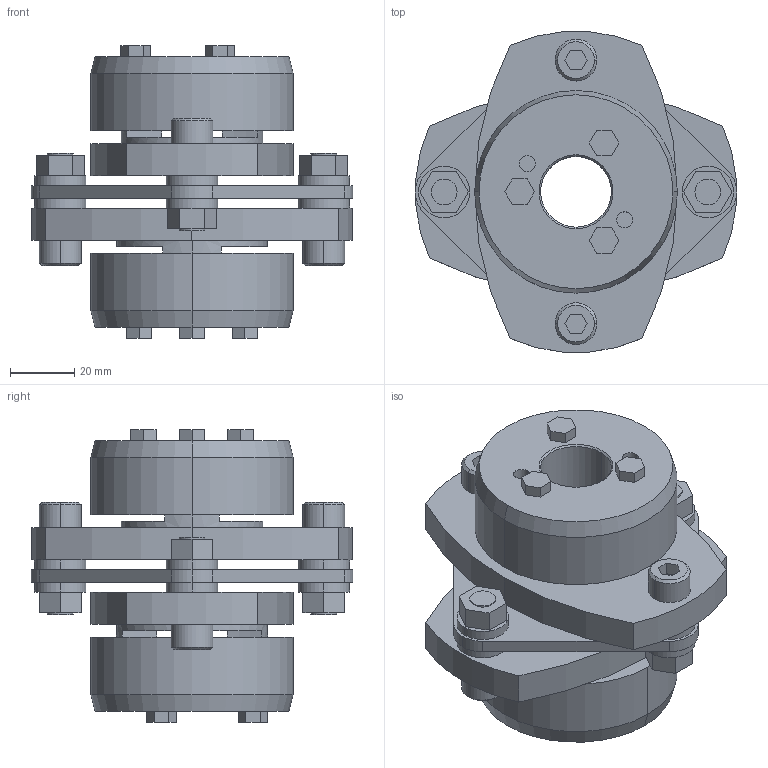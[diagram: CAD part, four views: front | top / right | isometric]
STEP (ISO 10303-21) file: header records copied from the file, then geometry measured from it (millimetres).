
FILE_DESCRIPTION((''),'2;1');
FILE_NAME('LCS-100T7-22×25.stp','2011-09-08T16:56:31',(''),(''),'AutoCAD STEP 2000i','AutoCAD 2000i',', , ');
FILE_SCHEMA(('CONFIG_CONTROL_DESIGN'));
Length unit declared in the file: millimetre
Products named in the file (6): LCS-100T7-22×25; 忣兜1; LC100T7-T025; LC100T7-T022-1; LC100T7-T022; LCS100-ITA
Assembly tree (5 placements, depth 2):
  LCS-100T7-22×25
    忣兜1
    LC100T7-T025
    LC100T7-T022-1
    LC100T7-T022
    LCS100-ITA
Bounding box: 100 x 99.93 x 91 mm (x, y, z)
Volume: 256813.3 mm3; surface area: 62898.2 mm2
Topology: 1 solids, 1 shells, 232 faces, 568 edges, 372 vertices
Faces by surface type: plane 132, cylinder 80, cone 20
Entity records: 7049 total; most frequent: DIRECTION 1240, CARTESIAN_POINT 1178, ORIENTED_EDGE 1136, EDGE_CURVE 568, AXIS2_PLACEMENT_3D 434, VERTEX_POINT 372, VECTOR 372, LINE 372
